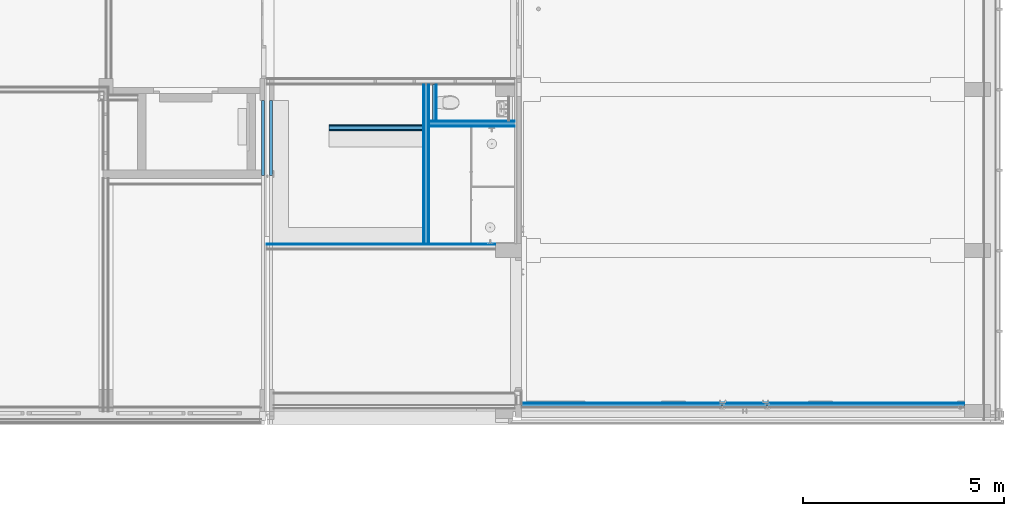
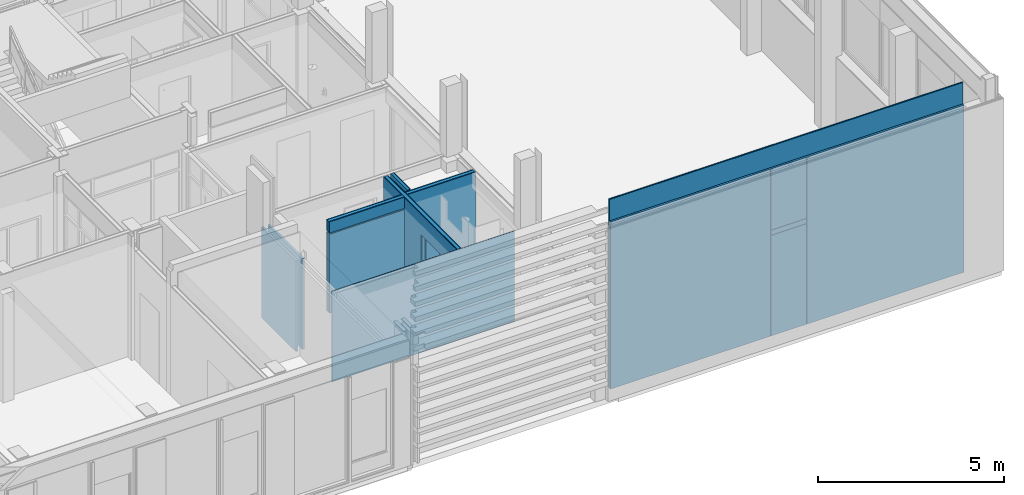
# One storey, part 78 of 109: 25 building element parts, 2 openings, 7 elements without a shape of their own.
"""IFC2X3 building model written with IfcOpenShell, lengths in millimetres."""

import ifcopenshell
import ifcopenshell.guid

model = None  # the IFC model being written
_history = None  # IfcOwnerHistory: only IFC2X3 demands one
_inside = {}  # id of a spatial element -> (the spatial element, [elements in it])
_under = {}  # id of a project, library or spatial element -> (it, [spatial elements below it])
_declared = {}  # id of a project -> (the project, [libraries it declares])
_typed = {}  # id of a type object -> (the type object, [elements of that type])
_made_of = {}  # id of a material, layer set ... -> (it, [elements and type objects made of it])


def new_model(schema):
    """Start an empty IFC model of exactly this schema.

    Asked for "IFC4X3", IfcOpenShell would pick the latest addendum, in which some entities
    have other attributes; the version numbers below select the first issue.
    IFC2X3 requires an IfcOwnerHistory on every rooted entity: one is made here for all.
    """
    global model, _history
    if schema == "IFC4X3":
        model = ifcopenshell.file(schema_version=(4, 3, 0, 0))
    else:
        model = ifcopenshell.file(schema=schema)
    _inside.clear()
    _under.clear()
    _declared.clear()
    _typed.clear()
    _made_of.clear()
    _history = None
    if model.schema == "IFC2X3":
        org = make("IfcOrganization", Name="unknown")
        user = make(
            "IfcPersonAndOrganization",
            ThePerson=make("IfcPerson", FamilyName="unknown"),
            TheOrganization=org,
        )
        app = make(
            "IfcApplication",
            ApplicationDeveloper=org,
            Version="unknown",
            ApplicationFullName="unknown",
            ApplicationIdentifier="unknown",
        )
        _history = make(
            "IfcOwnerHistory",
            OwningUser=user,
            OwningApplication=app,
            ChangeAction="ADDED",
            CreationDate=0,
        )
    return model


def make(cls, **values):
    """One entity of the class cls with the attributes given. An attribute that is None is left unset."""
    return model.create_entity(
        cls, **{name: value for name, value in values.items() if value is not None}
    )


def entity(cls, *values):
    """Any entity or typed value of the class cls, its attributes in the order of the schema. None: left unset."""
    e = model.create_entity(cls)
    for i, value in enumerate(values):
        if value is not None:
            e[i] = value
    return e


def rooted(cls, **values):
    """An entity with a GlobalId (a new one), such as an element, a storey or a relation."""
    return make(cls, GlobalId=ifcopenshell.guid.new(), OwnerHistory=_history, **values)


def si_unit(unit_type, name, prefix=None):
    """IfcSIUnit, for example si_unit("LENGTHUNIT", "METRE", prefix="MILLI")."""
    return make("IfcSIUnit", UnitType=unit_type, Prefix=prefix, Name=name)


def converted_unit(unit_type, name, factor, base, dimensions=None, offset=None):
    """IfcConversionBasedUnit, such as the inch: factor (a typed value) times the base unit."""
    return make(
        "IfcConversionBasedUnit"
        if offset is None
        else "IfcConversionBasedUnitWithOffset",
        ConversionOffset=offset,
        Dimensions=None
        if dimensions is None
        else entity("IfcDimensionalExponents", *dimensions),
        UnitType=unit_type,
        Name=name,
        ConversionFactor=make(
            "IfcMeasureWithUnit", ValueComponent=factor, UnitComponent=base
        ),
    )


def derived_unit(unit_type, elements):
    """IfcDerivedUnit: a product of units, each with its exponent."""
    return make(
        "IfcDerivedUnit",
        Elements=[
            make("IfcDerivedUnitElement", Unit=unit, Exponent=power)
            for unit, power in elements
        ],
        UnitType=unit_type,
    )


def money_unit(currency):
    """IfcMonetaryUnit."""
    return make("IfcMonetaryUnit", Currency=currency)


def assignment(units):
    """IfcUnitAssignment: the units of a project."""
    return None if units is None else make("IfcUnitAssignment", Units=units)


def point(xyz):
    """IfcCartesianPoint."""
    return None if xyz is None else make("IfcCartesianPoint", Coordinates=xyz)


def direction(xyz):
    """IfcDirection."""
    return None if xyz is None else make("IfcDirection", DirectionRatios=xyz)


def frame(location, z_axis=None, x_axis=None):
    """IfcAxis2Placement3D, a coordinate frame: its origin and axes. An axis left out is left unset."""
    return make(
        "IfcAxis2Placement3D",
        Location=point(location),
        Axis=direction(z_axis),
        RefDirection=direction(x_axis),
    )


def origin_with_axes():
    """The frame at (0, 0, 0) with the z axis (0, 0, 1) and the x axis (1, 0, 0) written out."""
    return frame((0.0, 0.0, 0.0), z_axis=(0.0, 0.0, 1.0), x_axis=(1.0, 0.0, 0.0))


def place(relative_to, where):
    """IfcLocalPlacement: puts the frame where relative to a parent placement (None: the world)."""
    return make(
        "IfcLocalPlacement", PlacementRelTo=relative_to, RelativePlacement=where
    )


def context(
    kind, dimensions, precision=None, world=None, true_north=None, identifier=None
):
    """IfcGeometricRepresentationContext, for example the 3D "Model" context."""
    return make(
        "IfcGeometricRepresentationContext",
        ContextIdentifier=identifier,
        ContextType=kind,
        CoordinateSpaceDimension=dimensions,
        Precision=precision,
        WorldCoordinateSystem=world,
        TrueNorth=true_north,
    )


def subcontext(parent, identifier, kind, view, scale=None):
    """IfcGeometricRepresentationSubContext, for example "Body" below "Model"."""
    return make(
        "IfcGeometricRepresentationSubContext",
        ContextIdentifier=identifier,
        ContextType=kind,
        ParentContext=parent,
        TargetScale=scale,
        TargetView=view,
    )


def project(units=None, contexts=None):
    """IfcProject with its units and contexts."""
    return rooted(
        "IfcProject",
        Name="project",
        RepresentationContexts=contexts,
        UnitsInContext=assignment(units),
    )


def spatial(cls, under=None, at=None, **own):
    """A site, building, storey or space (cls), placed at a placement, below another one or the project."""
    s = rooted(cls, ObjectPlacement=at, **own)
    if under is not None:
        _under.setdefault(under.id(), (under, []))[1].append(s)
    return s


def faces_of(points, faces, orient=None, outer=None):
    """IfcFace entities. A face is a list of loops; a loop is a list of indices into points, from 0.

    orient and outer hold one flag for each loop. By default every Orientation is true, the
    first loop of a face is its IfcFaceOuterBound and the others are IfcFaceBound.
    """
    made = []
    for i, loops in enumerate(faces):
        bounds = []
        for j, loop in enumerate(loops):
            is_outer = j == 0 if outer is None else outer[i][j]
            bounds.append(
                make(
                    "IfcFaceOuterBound" if is_outer else "IfcFaceBound",
                    Bound=make("IfcPolyLoop", Polygon=[points[k] for k in loop]),
                    Orientation=True if orient is None else orient[i][j],
                )
            )
        made.append(make("IfcFace", Bounds=bounds))
    return made


def faceted_brep(points, faces, orient=None, outer=None, voids=None):
    """IfcFacetedBrep: a solid bounded by flat faces; with voids (closed shells), ...WithVoids."""
    shared = [point(p) for p in points]
    hull = make("IfcClosedShell", CfsFaces=faces_of(shared, faces, orient, outer))
    if voids is None:
        return make("IfcFacetedBrep", Outer=hull)
    return make(
        "IfcFacetedBrepWithVoids",
        Outer=hull,
        Voids=[
            make(cls, CfsFaces=faces_of(shared, fs, o, b)) for cls, fs, o, b in voids
        ],
    )


def shape(context_of_items, identifier, shape_type, items):
    """IfcShapeRepresentation: the items that make up one representation, for example the "Body"."""
    return make(
        "IfcShapeRepresentation",
        ContextOfItems=context_of_items,
        RepresentationIdentifier=identifier,
        RepresentationType=shape_type,
        Items=items,
    )


def material(Name=None, Category=None):
    """IfcMaterial."""
    return make("IfcMaterial", Name=Name, Category=Category)


def made_of(thing, what):
    """Note that an element or type object is made of a material, layer set ...; save() writes the relation."""
    if what is not None:
        _made_of.setdefault(what.id(), (what, []))[1].append(thing)
    return thing


def type_object(cls, material=None, **own):
    """A type object (cls), such as IfcWallType, which elements share."""
    return made_of(rooted(cls, **own), material)


def element(
    cls,
    number,
    at=None,
    inside=None,
    cuts=None,
    type_object=None,
    material=None,
    context=None,
    identifier="Body",
    shape_type=None,
    held_by="IfcProductDefinitionShape",
    body=None,
    shapes=None,
    **own,
):
    """One element of the class cls, such as IfcWall. Its Tag is "e" and its number.

    at: its placement. inside: the storey or other place that contains it. cuts: it is an
    opening in that element (IfcRelVoidsElement). A single representation is given by context,
    identifier, shape_type and body (its items); several are given by shapes. held_by: the class
    of the entity that holds the representations. save() writes the other relations.
    """
    e = rooted(cls, Tag="e%d" % number, ObjectPlacement=at, **own)
    if body is not None:
        shapes = [shape(context, identifier, shape_type, body)]
    if shapes is not None:
        e.Representation = make(held_by, Representations=shapes)
    if inside is not None:
        _inside.setdefault(inside.id(), (inside, []))[1].append(e)
    if cuts is not None:
        rooted(
            "IfcRelVoidsElement", RelatingBuildingElement=cuts, RelatedOpeningElement=e
        )
    if type_object is not None:
        _typed.setdefault(type_object.id(), (type_object, []))[1].append(e)
    return made_of(e, material)


def aggregate(whole, parts):
    """IfcRelAggregates: a whole, such as a stair, and the parts it consists of."""
    return rooted("IfcRelAggregates", RelatingObject=whole, RelatedObjects=parts)


def save(model, path):
    """Write the relations noted so far, then the file.

    IfcRelAggregates (storeys below a building ...), IfcRelContainedInSpatialStructure (elements
    in a storey), IfcRelDefinesByType, IfcRelAssociatesMaterial and IfcRelDeclares: one each for
    every whole, place, type object, material and project.
    """
    for whole, parts in _under.values():
        aggregate(whole, parts)
    for where, things in _inside.values():
        rooted(
            "IfcRelContainedInSpatialStructure",
            RelatedElements=things,
            RelatingStructure=where,
        )
    for kind, things in _typed.values():
        rooted("IfcRelDefinesByType", RelatedObjects=things, RelatingType=kind)
    for what, things in _made_of.values():
        rooted("IfcRelAssociatesMaterial", RelatedObjects=things, RelatingMaterial=what)
    for by, libraries in _declared.values():
        rooted("IfcRelDeclares", RelatingContext=by, RelatedDefinitions=libraries)
    model.write(path)


model = new_model("IFC2X3")

# Units and contexts
model_context = context("Model", 3, precision=0.01, world=origin_with_axes(), true_north=direction((0.0, 1.0)))
body_context = subcontext(model_context, "Body", "Model", "MODEL_VIEW")
ifc_project = project(units=[si_unit("LENGTHUNIT", "METRE", prefix="MILLI"), si_unit("AREAUNIT", "SQUARE_METRE"), si_unit("VOLUMEUNIT", "CUBIC_METRE"), converted_unit("PLANEANGLEUNIT", "DEGREE", entity("IfcPlaneAngleMeasure", 0.0174532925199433), si_unit("PLANEANGLEUNIT", "RADIAN"), dimensions=[0, 0, 0, 0, 0, 0, 0]), money_unit("EUR"), converted_unit("TIMEUNIT", "Year", entity("IfcTimeMeasure", 31557600.0), si_unit("TIMEUNIT", "SECOND"), dimensions=[0, 0, 1, 0, 0, 0, 0]), si_unit("MASSUNIT", "GRAM", prefix="KILO"), si_unit("THERMODYNAMICTEMPERATUREUNIT", "DEGREE_CELSIUS"), si_unit("LUMINOUSINTENSITYUNIT", "LUMEN"), si_unit("ENERGYUNIT", "JOULE", prefix="MEGA"), derived_unit("THERMALCONDUCTANCEUNIT", [(si_unit("POWERUNIT", "WATT"), 1), (si_unit("LENGTHUNIT", "METRE"), -1), (si_unit("THERMODYNAMICTEMPERATUREUNIT", "KELVIN"), -1)]), derived_unit("SPECIFICHEATCAPACITYUNIT", [(si_unit("ENERGYUNIT", "JOULE"), 1), (si_unit("MASSUNIT", "GRAM", prefix="KILO"), -1), (si_unit("THERMODYNAMICTEMPERATUREUNIT", "KELVIN"), -1)]), derived_unit("MASSDENSITYUNIT", [(si_unit("MASSUNIT", "GRAM", prefix="KILO"), 1), (si_unit("VOLUMEUNIT", "CUBIC_METRE"), -1)])], contexts=[model_context])

# Site, building, storey
site_placement = place(None, origin_with_axes())
site = spatial("IfcSite", under=ifc_project, at=site_placement, Name="<site naam>", CompositionType="ELEMENT")
building_placement = place(site_placement, origin_with_axes())
building = spatial("IfcBuilding", under=site, at=building_placement, Name="<Naam gebouw>", CompositionType="ELEMENT")
storey_placement = place(building_placement, origin_with_axes())
storey = spatial("IfcBuildingStorey", under=building, at=storey_placement, Name="00 Begane grond", CompositionType="ELEMENT", Elevation=0.0)

# Wall, opening, building element parts
wall_type_1 = type_object("IfcWallType", Name="metalstud-lucht-metalstud 270 270", PredefinedType="NOTDEFINED")
wall_1_placement = place(storey_placement, frame((52000.00000000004, 11725.00000000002, 0.0), z_axis=(0.0, 0.0, 1.0), x_axis=(0.0, -1.0, 0.0)))
wall_1 = element("IfcWall", 1, at=wall_1_placement, inside=storey, type_object=wall_type_1, Name="22_Binnenwand_metalstud-lucht-metalstud")
opening_1_placement = place(wall_1_placement, frame((1724.999999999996, 0.0, 0.0), z_axis=(0.0, 0.0, 1.0), x_axis=(1.0, 0.0, 0.0)))
element("IfcOpeningElement", 2, at=opening_1_placement, cuts=wall_1, Name="22_BI-D-06_305", context=body_context, shape_type="Brep", body=[
    faceted_brep([(1724.999999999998, 136.0000000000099, 3000.0), (1724.999999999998, 136.0000000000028, 0.0), (-1724.999999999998, 136.0000000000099, 0.0), (-1724.999999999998, 136.0000000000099, 3000.0), (1724.999999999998, -136.0000000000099, 3000.0), (1724.999999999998, -136.000000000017, 0.0), (-1724.999999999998, -136.0000000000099, 0.0), (-1724.999999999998, -136.0000000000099, 3000.0)], [[[0, 1, 2, 3]], [[4, 5, 1, 0]], [[5, 6, 2, 1]], [[6, 7, 3, 2]], [[7, 4, 0, 3]], [[6, 5, 4, 7]]]),
])
ifc_material_1 = material(Name="metal_stud")
building_element_part_1_placement = place(wall_1_placement, origin_with_axes())
building_element_part_1 = element("IfcBuildingElementPart", 3, at=building_element_part_1_placement, material=ifc_material_1, Name="metal_stud", context=body_context, shape_type="Brep", body=[
    faceted_brep([(5853.999999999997, 134.999999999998, 0.0), (3999.999999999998, 134.999999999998, 0.0), (3999.999999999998, 134.999999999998, 2978.0), (5853.999999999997, 134.999999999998, 2978.0), (5853.999999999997, 64.99999999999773, 0.0), (3999.999999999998, 64.99999999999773, 0.0), (3999.999999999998, 64.99999999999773, 2978.0), (5853.999999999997, 64.99999999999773, 2978.0)], [[[0, 1, 2, 3]], [[4, 5, 1, 0]], [[5, 6, 2, 1]], [[3, 2, 6, 7]], [[4, 0, 3, 7]], [[7, 6, 5, 4]]]),
    faceted_brep([(0.0, 64.99999999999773, 2978.0), (3449.999999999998, 64.99999999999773, 2978.0), (3449.999999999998, 134.999999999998, 2978.0), (0.0, 134.999999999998, 2978.0), (0.0, 64.99999999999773, 0.0), (3449.999999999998, 64.99999999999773, 0.0), (3449.999999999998, 134.999999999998, 0.0), (0.0, 134.999999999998, 0.0)], [[[0, 1, 2, 3]], [[4, 5, 1, 0]], [[5, 6, 2, 1]], [[3, 2, 6, 7]], [[7, 4, 0, 3]], [[7, 6, 5, 4]]]),
])
building_element_part_2_placement = place(wall_1_placement, origin_with_axes())
building_element_part_2 = element("IfcBuildingElementPart", 4, at=building_element_part_2_placement, material=ifc_material_1, Name="metal_stud", context=body_context, shape_type="Brep", body=[
    faceted_brep([(5853.999999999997, -64.99999999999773, 0.0), (3999.999999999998, -64.99999999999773, 0.0), (3999.999999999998, -64.99999999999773, 2978.0), (5853.999999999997, -64.99999999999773, 2978.0), (5853.999999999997, -134.999999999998, 0.0), (3999.999999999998, -134.999999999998, 0.0), (3999.999999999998, -134.999999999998, 2978.0), (5853.999999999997, -134.999999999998, 2978.0)], [[[0, 1, 2, 3]], [[4, 5, 1, 0]], [[5, 6, 2, 1]], [[3, 2, 6, 7]], [[4, 0, 3, 7]], [[7, 6, 5, 4]]]),
    faceted_brep([(0.0, -134.999999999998, 2978.0), (3449.999999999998, -134.999999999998, 2978.0), (3449.999999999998, -64.99999999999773, 2978.0), (0.0, -64.99999999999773, 2978.0), (0.0, -134.999999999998, 0.0), (3449.999999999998, -134.999999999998, 0.0), (3449.999999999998, -64.99999999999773, 0.0), (0.0, -64.99999999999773, 0.0)], [[[0, 1, 2, 3]], [[4, 5, 1, 0]], [[5, 6, 2, 1]], [[3, 2, 6, 7]], [[7, 4, 0, 3]], [[7, 6, 5, 4]]]),
])
aggregate(wall_1, [building_element_part_1, building_element_part_2])

# Wall, building element parts
wall_type_2 = type_object("IfcWallType", Name="MS-01 GF 150 ECO DGS/2.100.2.A 150", PredefinedType="NOTDEFINED")
wall_2_placement = place(storey_placement, frame((56037.8144885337, 7225.000000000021, 0.0), z_axis=(0.0, 0.0, 1.0), x_axis=(1.0, 0.0, 0.0)))
wall_2 = element("IfcWall", 5, at=wall_2_placement, inside=storey, type_object=wall_type_2, Name="22_Binnenwand_MS-01")
ifc_material_2 = material(Name="gipsplaat")
building_element_part_3_placement = place(wall_2_placement, origin_with_axes())
building_element_part_3 = element("IfcBuildingElementPart", 6, at=building_element_part_3_placement, material=ifc_material_2, Name="gipsplaat", context=body_context, shape_type="Brep", body=[
    faceted_brep([(0.0, 0.0, 2978.0), (2119.968356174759, 0.0, 2978.0), (2119.968356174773, 0.0, 0.0), (0.0, 0.0, 0.0), (2119.968356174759, -12.49999999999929, 2978.0), (0.0, -12.50000000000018, 2978.0), (2119.968356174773, -12.50000000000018, 0.0), (0.0, -12.50000000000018, 0.0)], [[[0, 1, 2, 3]], [[4, 1, 0, 5]], [[1, 4, 6, 2]], [[3, 2, 6, 7]], [[5, 0, 3, 7]], [[4, 5, 7, 6]]]),
])
building_element_part_4_placement = place(wall_2_placement, origin_with_axes())
building_element_part_4 = element("IfcBuildingElementPart", 7, at=building_element_part_4_placement, material=ifc_material_2, Name="gipsplaat", context=body_context, shape_type="Brep", body=[
    faceted_brep([(0.0, -12.50000000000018, 2978.0), (2119.968356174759, -12.50000000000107, 2978.0), (2119.968356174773, -12.50000000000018, 0.0), (0.0, -12.50000000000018, 0.0), (2119.968356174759, -25.00000000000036, 2978.0), (0.0, -24.99999999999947, 2978.0), (2119.968356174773, -24.99999999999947, 0.0), (0.0, -25.00000000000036, 0.0)], [[[0, 1, 2, 3]], [[4, 1, 0, 5]], [[1, 4, 6, 2]], [[3, 2, 6, 7]], [[5, 0, 3, 7]], [[4, 5, 7, 6]]]),
])
building_element_part_5_placement = place(wall_2_placement, origin_with_axes())
building_element_part_5 = element("IfcBuildingElementPart", 8, at=building_element_part_5_placement, material=ifc_material_2, Name="gipsplaat", context=body_context, shape_type="Brep", body=[
    faceted_brep([(0.0, -125.0, 2978.0), (2119.968356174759, -125.0, 2978.0), (2119.968356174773, -125.0, 0.0), (0.0, -125.0, 0.0), (2119.968356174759, -137.5000000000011, 2978.0), (0.0, -137.5000000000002, 2978.0), (2119.968356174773, -137.5000000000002, 0.0), (0.0, -137.5000000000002, 0.0)], [[[0, 1, 2, 3]], [[4, 1, 0, 5]], [[1, 4, 6, 2]], [[3, 2, 6, 7]], [[5, 0, 3, 7]], [[4, 5, 7, 6]]]),
])
ifc_material_3 = material(Name="isolatie_steenwol LSW")
building_element_part_6_placement = place(wall_2_placement, origin_with_axes())
building_element_part_6 = element("IfcBuildingElementPart", 9, at=building_element_part_6_placement, material=ifc_material_3, Name="isolatie_steenwol LSW", context=body_context, shape_type="Brep", body=[
    faceted_brep([(0.0, -24.99999999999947, 2978.0), (2119.968356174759, -25.00000000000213, 2978.0), (2119.968356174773, -24.99999999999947, 0.0), (0.0, -25.00000000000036, 0.0), (2119.968356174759, -125.0, 2978.0), (0.0, -125.0, 2978.0), (2119.968356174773, -125.0, 0.0), (0.0, -125.0, 0.0)], [[[0, 1, 2, 3]], [[4, 1, 0, 5]], [[1, 4, 6, 2]], [[3, 2, 6, 7]], [[5, 0, 3, 7]], [[4, 5, 7, 6]]]),
])

# Wall, opening, building element parts
wall_3_placement = place(storey_placement, frame((56037.8144885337, 4175.000000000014, 0.0), z_axis=(0.0, 0.0, 1.0), x_axis=(0.0, 1.0, 0.0)))
wall_3 = element("IfcWall", 10, at=wall_3_placement, inside=storey, type_object=wall_type_2, Name="22_Binnenwand_MS-01")
opening_2_placement = place(wall_3_placement, frame((1412.500000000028, 0.0, 0.0), z_axis=(0.0, 0.0, 1.0), x_axis=(1.0, 0.0, 0.0)))
element("IfcOpeningElement", 11, at=opening_2_placement, cuts=wall_3, Name="22__305", context=body_context, shape_type="Brep", body=[
    faceted_brep([(-500.0, -0.9999999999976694, 2300.0), (-500.0, -0.9999999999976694, 0.0), (500.0, -0.9999999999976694, 0.0), (500.0, -0.9999999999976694, 2300.0), (-500.0, 150.9999999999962, 2300.0), (-500.0, 150.9999999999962, 0.0), (500.0, 150.9999999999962, 0.0), (500.0, 150.9999999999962, 2300.0)], [[[0, 1, 2, 3]], [[4, 5, 1, 0]], [[5, 6, 2, 1]], [[6, 7, 3, 2]], [[7, 4, 0, 3]], [[6, 5, 4, 7]]]),
])
building_element_part_7_placement = place(wall_3_placement, origin_with_axes())
building_element_part_7 = element("IfcBuildingElementPart", 12, at=building_element_part_7_placement, material=ifc_material_2, Name="gipsplaat", context=body_context, shape_type="Brep", body=[
    faceted_brep([(3950.000000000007, 149.9999999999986, 2978.0), (3950.000000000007, 137.5000000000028, 2978.0), (3950.000000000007, 137.5000000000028, 0.0), (3950.000000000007, 149.9999999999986, 0.0), (0.0, 137.5000000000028, 2978.0), (0.0, 149.9999999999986, 2978.0), (0.0, 137.5000000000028, 3.000000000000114), (2900.000000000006, 137.5000000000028, 2.999999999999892), (2900.000000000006, 137.5000000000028, 0.0), (2900.000000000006, 149.9999999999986, 0.0), (2900.000000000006, 149.9999999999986, 2.999999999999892), (0.0, 149.9999999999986, 2.999999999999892)], [[[0, 1, 2, 3]], [[4, 1, 0, 5]], [[1, 4, 6, 7, 8, 2]], [[2, 8, 9, 3]], [[5, 0, 3, 9, 10, 11]], [[4, 5, 11, 6]], [[11, 10, 7, 6]], [[9, 8, 7, 10]]]),
])
building_element_part_8_placement = place(wall_3_placement, origin_with_axes())
building_element_part_8 = element("IfcBuildingElementPart", 13, at=building_element_part_8_placement, material=ifc_material_2, Name="gipsplaat", context=body_context, shape_type="Brep", body=[
    faceted_brep([(3950.000000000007, 137.5000000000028, 2978.0), (3950.000000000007, 125.0, 2978.0), (3950.000000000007, 125.0, 0.0), (3950.000000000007, 137.5000000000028, 0.0), (0.0, 125.0, 2978.0), (0.0, 137.5000000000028, 2978.0), (0.0, 125.0, 3.000000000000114), (2900.000000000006, 125.0, 2.999999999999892), (2900.000000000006, 125.0, 0.0), (2900.000000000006, 137.5000000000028, 0.0), (2900.000000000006, 137.5000000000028, 2.999999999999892), (0.0, 137.5000000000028, 2.999999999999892)], [[[0, 1, 2, 3]], [[4, 1, 0, 5]], [[1, 4, 6, 7, 8, 2]], [[2, 8, 9, 3]], [[5, 0, 3, 9, 10, 11]], [[4, 5, 11, 6]], [[11, 10, 7, 6]], [[9, 8, 7, 10]]]),
])
building_element_part_9_placement = place(wall_3_placement, origin_with_axes())
building_element_part_9 = element("IfcBuildingElementPart", 14, at=building_element_part_9_placement, material=ifc_material_3, Name="isolatie_steenwol LSW", context=body_context, shape_type="Brep", body=[
    faceted_brep([(3950.000000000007, 125.0, 2978.0), (3950.000000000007, 24.99999999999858, 2978.0), (3950.000000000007, 24.99999999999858, 0.0), (3950.000000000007, 125.0, 0.0), (0.0, 24.99999999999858, 2978.0), (0.0, 125.0, 2978.0), (0.0, 24.99999999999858, 3.000000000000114), (2900.000000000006, 24.99999999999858, 2.999999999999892), (2900.000000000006, 24.99999999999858, 0.0), (2900.000000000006, 125.0, 0.0), (2900.000000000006, 125.0, 2.999999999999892), (0.0, 125.0, 2.999999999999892)], [[[0, 1, 2, 3]], [[4, 1, 0, 5]], [[1, 4, 6, 7, 8, 2]], [[2, 8, 9, 3]], [[5, 0, 3, 9, 10, 11]], [[4, 5, 11, 6]], [[11, 10, 7, 6]], [[9, 8, 7, 10]]]),
])
building_element_part_10_placement = place(wall_3_placement, origin_with_axes())
building_element_part_10 = element("IfcBuildingElementPart", 15, at=building_element_part_10_placement, material=ifc_material_2, Name="gipsplaat", context=body_context, shape_type="Brep", body=[
    faceted_brep([(3950.000000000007, 24.99999999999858, 2978.0), (3950.000000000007, 12.50000000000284, 2978.0), (3950.000000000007, 12.50000000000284, 0.0), (3950.000000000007, 24.99999999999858, 0.0), (0.0, 12.50000000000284, 2978.0), (0.0, 24.99999999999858, 2978.0), (0.0, 12.50000000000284, 3.000000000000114), (2900.000000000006, 12.50000000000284, 2.999999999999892), (2900.000000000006, 12.50000000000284, 0.0), (2900.000000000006, 24.99999999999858, 0.0), (2900.000000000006, 24.99999999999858, 2.999999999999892), (0.0, 24.99999999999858, 2.999999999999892)], [[[0, 1, 2, 3]], [[4, 1, 0, 5]], [[1, 4, 6, 7, 8, 2]], [[2, 8, 9, 3]], [[5, 0, 3, 9, 10, 11]], [[4, 5, 11, 6]], [[11, 10, 7, 6]], [[9, 8, 7, 10]]]),
])
building_element_part_11_placement = place(wall_3_placement, origin_with_axes())
building_element_part_11 = element("IfcBuildingElementPart", 16, at=building_element_part_11_placement, material=ifc_material_2, Name="gipsplaat", context=body_context, shape_type="Brep", body=[
    faceted_brep([(3950.000000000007, 12.50000000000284, 2978.0), (3950.000000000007, 0.0, 2978.0), (3950.000000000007, 0.0, 0.0), (3950.000000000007, 12.50000000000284, 0.0), (0.0, 0.0, 2978.0), (0.0, 12.50000000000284, 2978.0), (0.0, 0.0, 3.000000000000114), (2900.000000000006, 0.0, 2.999999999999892), (2900.000000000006, 0.0, 0.0), (2900.000000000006, 12.50000000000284, 0.0), (2900.000000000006, 12.50000000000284, 2.999999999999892), (0.0, 12.50000000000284, 2.999999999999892)], [[[0, 1, 2, 3]], [[4, 1, 0, 5]], [[1, 4, 6, 7, 8, 2]], [[2, 8, 9, 3]], [[5, 0, 3, 9, 10, 11]], [[4, 5, 11, 6]], [[11, 10, 7, 6]], [[9, 8, 7, 10]]]),
])
aggregate(wall_3, [building_element_part_7, building_element_part_8, building_element_part_9, building_element_part_10, building_element_part_11])

# Wall, building element parts
wall_4_placement = place(storey_placement, frame((52000.00000000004, 4175.000000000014, 0.0), z_axis=(0.0, 0.0, 1.0), x_axis=(1.0, 0.0, 0.0)))
wall_4 = element("IfcWall", 17, at=wall_4_placement, inside=storey, type_object=wall_type_2, Name="22_Binnenwand_MS-01")
building_element_part_12_placement = place(wall_4_placement, origin_with_axes())
building_element_part_12 = element("IfcBuildingElementPart", 18, at=building_element_part_12_placement, material=ifc_material_2, Name="gipsplaat", context=body_context, shape_type="Brep", body=[
    faceted_brep([(5675.000000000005, -24.99999999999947, 2978.0), (5675.000000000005, -12.49999999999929, 2978.0), (0.0, -12.50000000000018, 2978.0), (0.0, -24.99999999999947, 2978.0), (5675.000000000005, -12.49999999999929, 3.000000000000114), (5675.000000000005, -24.99999999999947, 3.000000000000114), (135.0000000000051, -12.49999999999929, 3.000000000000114), (135.0000000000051, -12.50000000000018, 0.0), (0.0, -12.50000000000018, 0.0), (0.0, -25.00000000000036, 0.0), (135.0000000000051, -25.00000000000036, 0.0), (135.0000000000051, -24.99999999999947, 3.000000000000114)], [[[0, 1, 2, 3]], [[4, 1, 0, 5]], [[1, 4, 6, 7, 8, 2]], [[9, 3, 2, 8]], [[5, 0, 3, 9, 10, 11]], [[4, 5, 11, 6]], [[11, 10, 7, 6]], [[9, 8, 7, 10]]]),
])
building_element_part_13_placement = place(wall_4_placement, origin_with_axes())
building_element_part_13 = element("IfcBuildingElementPart", 19, at=building_element_part_13_placement, material=ifc_material_2, Name="gipsplaat", context=body_context, shape_type="Brep", body=[
    faceted_brep([(5675.000000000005, -12.49999999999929, 2978.0), (5675.000000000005, 0.0, 2978.0), (0.0, 0.0, 2978.0), (0.0, -12.50000000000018, 2978.0), (5675.000000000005, 0.0, 3.000000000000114), (5675.000000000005, -12.49999999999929, 3.000000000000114), (135.0000000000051, 0.0, 3.000000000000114), (135.0000000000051, 0.0, 0.0), (0.0, 0.0, 0.0), (0.0, -12.50000000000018, 0.0), (135.0000000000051, -12.50000000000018, 0.0), (135.0000000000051, -12.49999999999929, 3.000000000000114)], [[[0, 1, 2, 3]], [[4, 1, 0, 5]], [[1, 4, 6, 7, 8, 2]], [[9, 3, 2, 8]], [[5, 0, 3, 9, 10, 11]], [[4, 5, 11, 6]], [[11, 10, 7, 6]], [[9, 8, 7, 10]]]),
])
aggregate(wall_4, [building_element_part_12, building_element_part_13])

# Building element part
building_element_part_14_placement = place(wall_2_placement, origin_with_axes())
building_element_part_14 = element("IfcBuildingElementPart", 20, at=building_element_part_14_placement, material=ifc_material_2, Name="gipsplaat", context=body_context, shape_type="Brep", body=[
    faceted_brep([(0.0, -137.5000000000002, 2978.0), (2119.968356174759, -137.4999999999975, 2978.0), (2119.968356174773, -137.5000000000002, 0.0), (0.0, -137.5000000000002, 0.0), (2119.968356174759, -150.0000000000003, 2978.0), (0.0, -149.9999999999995, 2978.0), (2119.968356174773, -149.9999999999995, 0.0), (0.0, -150.0000000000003, 0.0)], [[[0, 1, 2, 3]], [[4, 1, 0, 5]], [[1, 4, 6, 2]], [[3, 2, 6, 7]], [[5, 0, 3, 7]], [[4, 5, 7, 6]]]),
])

aggregate(wall_2, [building_element_part_3, building_element_part_4, building_element_part_5, building_element_part_6, building_element_part_14])

# Wall, building element parts
wall_5_placement = place(storey_placement, frame((53547.8144872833, 7124.999999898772, 0.0), z_axis=(0.0, 0.0, 1.0), x_axis=(1.0, 0.0, 0.0)))
wall_5 = element("IfcWall", 21, at=wall_5_placement, inside=storey, type_object=wall_type_2, Name="22_Binnenwand_MS-01")
building_element_part_15_placement = place(wall_5_placement, origin_with_axes())
building_element_part_15 = element("IfcBuildingElementPart", 22, at=building_element_part_15_placement, material=ifc_material_2, Name="gipsplaat", context=body_context, shape_type="Brep", body=[
    faceted_brep([(2340.0000017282, -12.50000009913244, 2.999999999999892), (2340.000001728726, -9.913136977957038e-08, 2.999999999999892), (2340.000024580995, -9.913136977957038e-08, 2600.0), (2340.000024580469, -12.50000009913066, 2600.0), (0.0, 0.0, 3.000000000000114), (-5.258016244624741e-10, -12.50000000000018, 2.999999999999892), (0.0, 0.0, 2600.0), (-5.258016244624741e-10, -12.50000000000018, 2600.0)], [[[0, 1, 2, 3]], [[4, 1, 0, 5]], [[1, 4, 6, 2]], [[3, 2, 6, 7]], [[5, 0, 3, 7]], [[4, 5, 7, 6]]]),
    faceted_brep([(2340.000024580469, -12.50000009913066, 2640.0), (2340.000024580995, -9.913136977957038e-08, 2640.0), (2340.000001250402, -9.913136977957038e-08, 3008.0), (2340.000001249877, -12.50000009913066, 3008.0), (0.0, 0.0, 2640.0), (-5.258016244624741e-10, -12.50000000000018, 2640.0), (0.0, 0.0, 3008.0), (-5.258016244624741e-10, -12.50000000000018, 3008.0)], [[[0, 1, 2, 3]], [[4, 1, 0, 5]], [[1, 4, 6, 2]], [[3, 2, 6, 7]], [[5, 0, 3, 7]], [[4, 5, 7, 6]]]),
])
building_element_part_16_placement = place(wall_5_placement, origin_with_axes())
building_element_part_16 = element("IfcBuildingElementPart", 23, at=building_element_part_16_placement, material=ifc_material_3, Name="isolatie_steenwol LSW", context=body_context, shape_type="Brep", body=[
    faceted_brep([(2340.000001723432, -125.0000000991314, 2.999999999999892), (2340.000001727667, -25.00000009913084, 2.999999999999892), (2340.000024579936, -25.00000009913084, 2600.0), (2340.000024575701, -125.0000000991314, 2600.0), (-1.058708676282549e-09, -25.00000000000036, 3.000000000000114), (-5.293543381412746e-09, -125.0, 2.999999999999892), (-1.058708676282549e-09, -24.99999999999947, 2600.0), (-5.293543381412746e-09, -125.0, 2600.0)], [[[0, 1, 2, 3]], [[4, 1, 0, 5]], [[1, 4, 6, 2]], [[3, 2, 6, 7]], [[5, 0, 3, 7]], [[4, 5, 7, 6]]]),
    faceted_brep([(2340.000024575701, -125.0000000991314, 2640.0), (2340.000024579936, -25.00000009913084, 2640.0), (2340.000001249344, -25.00000009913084, 3008.0), (2340.000001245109, -125.0000000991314, 3008.0), (-1.058708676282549e-09, -24.99999999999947, 2640.0), (-5.293543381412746e-09, -125.0, 2640.0), (-1.058708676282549e-09, -24.99999999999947, 3008.0), (-5.293543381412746e-09, -125.0, 3008.0)], [[[0, 1, 2, 3]], [[4, 1, 0, 5]], [[1, 4, 6, 2]], [[3, 2, 6, 7]], [[5, 0, 3, 7]], [[4, 5, 7, 6]]]),
])
building_element_part_17_placement = place(wall_5_placement, origin_with_axes())
building_element_part_17 = element("IfcBuildingElementPart", 24, at=building_element_part_17_placement, material=ifc_material_2, Name="gipsplaat", context=body_context, shape_type="Brep", body=[
    faceted_brep([(2340.000001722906, -137.5000000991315, 2.999999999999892), (2340.000001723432, -125.0000000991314, 2.999999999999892), (2340.000024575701, -125.0000000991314, 2600.0), (2340.000024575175, -137.5000000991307, 2600.0), (-5.293543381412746e-09, -125.0, 3.000000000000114), (-5.819345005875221e-09, -137.5000000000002, 2.999999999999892), (-5.293543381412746e-09, -125.0, 2600.0), (-5.819345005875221e-09, -137.5000000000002, 2600.0)], [[[0, 1, 2, 3]], [[4, 1, 0, 5]], [[1, 4, 6, 2]], [[3, 2, 6, 7]], [[5, 0, 3, 7]], [[4, 5, 7, 6]]]),
    faceted_brep([(2340.000024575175, -137.5000000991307, 2640.0), (2340.000024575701, -125.0000000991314, 2640.0), (2340.000001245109, -125.0000000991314, 3008.0), (2340.000001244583, -137.5000000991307, 3008.0), (-5.293543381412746e-09, -125.0, 2640.0), (-5.819345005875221e-09, -137.5000000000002, 2640.0), (-5.293543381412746e-09, -125.0, 3008.0), (-5.819345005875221e-09, -137.5000000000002, 3008.0)], [[[0, 1, 2, 3]], [[4, 1, 0, 5]], [[1, 4, 6, 2]], [[3, 2, 6, 7]], [[5, 0, 3, 7]], [[4, 5, 7, 6]]]),
])
building_element_part_18_placement = place(wall_5_placement, origin_with_axes())
building_element_part_18 = element("IfcBuildingElementPart", 25, at=building_element_part_18_placement, material=ifc_material_2, Name="gipsplaat", context=body_context, shape_type="Brep", body=[
    faceted_brep([(2340.000001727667, -25.00000009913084, 2.999999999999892), (2340.0000017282, -12.50000009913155, 2.999999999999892), (2340.000024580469, -12.50000009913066, 2600.0), (2340.000024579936, -25.00000009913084, 2600.0), (-5.258016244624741e-10, -12.50000000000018, 3.000000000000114), (-1.058708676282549e-09, -25.00000000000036, 2.999999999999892), (-5.258016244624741e-10, -12.50000000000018, 2600.0), (-1.058708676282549e-09, -24.99999999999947, 2600.0)], [[[0, 1, 2, 3]], [[4, 1, 0, 5]], [[1, 4, 6, 2]], [[3, 2, 6, 7]], [[5, 0, 3, 7]], [[4, 5, 7, 6]]]),
    faceted_brep([(2340.000024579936, -25.00000009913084, 2640.0), (2340.000024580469, -12.50000009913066, 2640.0), (2340.000001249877, -12.50000009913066, 3008.0), (2340.000001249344, -25.00000009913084, 3008.0), (-5.258016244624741e-10, -12.50000000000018, 2640.0), (-1.058708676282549e-09, -24.99999999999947, 2640.0), (-5.258016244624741e-10, -12.50000000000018, 3008.0), (-1.058708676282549e-09, -24.99999999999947, 3008.0)], [[[0, 1, 2, 3]], [[4, 1, 0, 5]], [[1, 4, 6, 2]], [[3, 2, 6, 7]], [[5, 0, 3, 7]], [[4, 5, 7, 6]]]),
])
building_element_part_19_placement = place(wall_5_placement, origin_with_axes())
building_element_part_19 = element("IfcBuildingElementPart", 26, at=building_element_part_19_placement, material=ifc_material_2, Name="gipsplaat", context=body_context, shape_type="Brep", body=[
    faceted_brep([(2340.000001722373, -150.0000000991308, 2.999999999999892), (2340.000001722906, -137.5000000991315, 2.999999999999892), (2340.000024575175, -137.5000000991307, 2600.0), (2340.000024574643, -150.0000000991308, 2600.0), (-5.819345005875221e-09, -137.5000000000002, 3.000000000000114), (-6.352252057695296e-09, -150.0000000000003, 2.999999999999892), (-5.819345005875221e-09, -137.5000000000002, 2600.0), (-6.352252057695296e-09, -149.9999999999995, 2600.0)], [[[0, 1, 2, 3]], [[4, 1, 0, 5]], [[1, 4, 6, 2]], [[3, 2, 6, 7]], [[5, 0, 3, 7]], [[4, 5, 7, 6]]]),
    faceted_brep([(2340.000024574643, -150.0000000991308, 2640.0), (2340.000024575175, -137.5000000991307, 2640.0), (2340.000001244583, -137.5000000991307, 3008.0), (2340.00000124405, -150.0000000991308, 3008.0), (-5.819345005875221e-09, -137.5000000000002, 2640.0), (-6.352252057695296e-09, -149.9999999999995, 2640.0), (-5.819345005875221e-09, -137.5000000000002, 3008.0), (-6.352252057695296e-09, -149.9999999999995, 3008.0)], [[[0, 1, 2, 3]], [[4, 1, 0, 5]], [[1, 4, 6, 2]], [[3, 2, 6, 7]], [[5, 0, 3, 7]], [[4, 5, 7, 6]]]),
])
aggregate(wall_5, [building_element_part_15, building_element_part_16, building_element_part_17, building_element_part_18, building_element_part_19])

wall_type_3 = type_object("IfcWallType", Name="therm. voorzetwand 215mm 215", PredefinedType="NOTDEFINED")
wall_6_placement = place(storey_placement, frame((58325.00000000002, 10.91067811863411, 0.0), z_axis=(0.0, 0.0, 1.0), x_axis=(1.0, 5.486340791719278e-09, 0.0)))
wall_6 = element("IfcWall", 27, at=wall_6_placement, inside=storey, type_object=wall_type_3, Name="22_Binnenwand_therm.")
building_element_part_20_placement = place(wall_6_placement, origin_with_axes())
building_element_part_20 = element("IfcBuildingElementPart", 28, at=building_element_part_20_placement, material=ifc_material_2, Name="gipsplaat", context=body_context, shape_type="Brep", body=[
    faceted_brep([(1.17955067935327e-06, 214.9999999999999, 6194.999999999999), (11000.00011562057, 214.9999396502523, 6194.999999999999), (11000.00011562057, 214.9999396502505, 0.0), (1.179557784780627e-06, 214.9999999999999, 0.0), (11000.00011555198, 202.4999396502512, 6194.999999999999), (1.110976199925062e-06, 202.5000000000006, 6194.999999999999), (11000.00011555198, 202.4999396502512, 0.0), (1.11098330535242e-06, 202.5000000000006, 0.0)], [[[0, 1, 2, 3]], [[4, 1, 0, 5]], [[1, 4, 6, 2]], [[3, 2, 6, 7]], [[5, 0, 3, 7]], [[4, 5, 7, 6]]]),
])
building_element_part_21_placement = place(wall_6_placement, origin_with_axes())
building_element_part_21 = element("IfcBuildingElementPart", 29, at=building_element_part_21_placement, material=ifc_material_2, Name="gipsplaat", context=body_context, shape_type="Brep", body=[
    faceted_brep([(1.110976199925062e-06, 202.5000000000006, 6194.999999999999), (11000.00011555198, 202.4999396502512, 6194.999999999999), (11000.00011555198, 202.4999396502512, 0.0), (1.11098330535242e-06, 202.5000000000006, 0.0), (11000.0001154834, 189.9999396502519, 6194.999999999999), (1.042394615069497e-06, 190.0000000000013, 6194.999999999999), (11000.0001154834, 189.9999396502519, 0.0), (1.042401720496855e-06, 189.9999999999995, 0.0)], [[[0, 1, 2, 3]], [[4, 1, 0, 5]], [[1, 4, 6, 2]], [[3, 2, 6, 7]], [[5, 0, 3, 7]], [[4, 5, 7, 6]]]),
])
ifc_material_4 = material(Name="isolatie_steenwol")
building_element_part_22_placement = place(wall_6_placement, origin_with_axes())
building_element_part_22 = element("IfcBuildingElementPart", 30, at=building_element_part_22_placement, material=ifc_material_4, Name="isolatie_steenwol", context=body_context, shape_type="Brep", body=[
    faceted_brep([(9.002363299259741e-07, 164.0893218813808, 6194.999999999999), (11000.00011534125, 164.0892615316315, 6194.999999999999), (11000.0001154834, 189.9999396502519, 6194.999999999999), (1.042394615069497e-06, 190.0000000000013, 6194.999999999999), (11000.00011534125, 164.0892615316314, 5494.999999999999), (9.002363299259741e-07, 164.0893218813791, 5494.999999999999), (4981.75000090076, 164.0892945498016, 5494.999999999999), (4988.250000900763, 164.0892945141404, 5494.999999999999), (6101.750000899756, 164.0892884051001, 5494.999999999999), (6108.250000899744, 164.0892883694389, 5494.999999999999), (11000.00011498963, 99.99993965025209, 5494.999999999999), (11000.00011498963, 99.99993965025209, 0.0), (11000.0001154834, 189.9999396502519, 0.0), (1.042401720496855e-06, 189.9999999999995, 0.0), (5.486313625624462e-07, 99.99999999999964, 0.0), (5.486242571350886e-07, 99.99999999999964, 5494.999999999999), (4981.750000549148, 99.99997266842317, 5494.999999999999), (4981.75000093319, 170.0000542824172, 5494.999999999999), (4925.000000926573, 170.0000545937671, 5494.999999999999), (4925.000000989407, 181.0000547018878, 5494.999999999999), (5045.000000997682, 181.0000540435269, 5494.999999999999), (5045.000000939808, 170.0000539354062, 5494.999999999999), (4988.250000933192, 170.000054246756, 5494.999999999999), (6101.750000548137, 99.99996652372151, 5494.999999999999), (4988.250000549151, 99.99997263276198, 5494.999999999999), (6101.750000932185, 170.0000481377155, 5494.999999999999), (6045.000000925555, 170.0000484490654, 5494.999999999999), (6045.000000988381, 181.0000485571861, 5494.999999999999), (6165.000000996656, 181.0000478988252, 5494.999999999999), (6165.000000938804, 170.0000477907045, 5494.999999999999), (6108.250000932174, 170.0000481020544, 5494.999999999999), (6108.250000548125, 99.99996648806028, 5494.999999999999), (6108.250000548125, 99.9999664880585, 0.0), (6101.750000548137, 99.99996652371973, 0.0), (4988.250000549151, 99.9999726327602, 0.0), (4988.250000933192, 170.000054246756, 0.0), (5045.000000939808, 170.0000539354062, 0.0), (5045.000000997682, 181.0000540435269, 0.0), (4925.000000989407, 181.0000547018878, 0.0), (4925.000000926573, 170.0000545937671, 0.0), (4981.75000093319, 170.0000542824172, 0.0), (4981.750000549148, 99.99997266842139, 0.0), (6108.250000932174, 170.0000481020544, 0.0), (6165.000000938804, 170.0000477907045, 0.0), (6165.000000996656, 181.0000478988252, 0.0), (6045.000000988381, 181.0000485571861, 0.0), (6045.000000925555, 170.0000484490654, 0.0), (6101.750000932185, 170.0000481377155, 0.0), (5045.000000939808, 170.0000539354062, 3306.999992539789), (5045.000000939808, 170.0000539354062, 3487.000007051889), (4988.250000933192, 170.000054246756, 3487.000007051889), (4988.250000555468, 99.99964868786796, 3487.000007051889), (6101.750000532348, 99.99964257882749, 3487.000007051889), (6101.750000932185, 170.0000481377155, 3487.000007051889), (6045.000000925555, 170.0000484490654, 3487.000007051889), (6045.000000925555, 170.0000484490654, 3306.999992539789), (6101.750000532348, 99.99964257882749, 3306.999992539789), (4988.250000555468, 99.99964868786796, 3306.999992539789), (4988.250000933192, 170.000054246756, 3306.999992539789), (6101.750000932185, 170.0000481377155, 3306.999992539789)], [[[0, 1, 2, 3]], [[4, 1, 0, 5, 6, 7, 8, 9]], [[4, 10, 11, 12, 2, 1]], [[13, 3, 2, 12]], [[5, 0, 3, 13, 14, 15]], [[16, 6, 5, 15]], [[7, 6, 17, 18, 19, 20, 21, 22]], [[23, 8, 7, 24]], [[9, 8, 25, 26, 27, 28, 29, 30]], [[10, 4, 9, 31]], [[10, 31, 32, 11]], [[33, 34, 35, 36, 37, 38, 39, 40, 41, 14, 13, 12, 11, 32, 42, 43, 44, 45, 46, 47]], [[16, 15, 14, 41]], [[6, 16, 41, 40, 17]], [[18, 17, 40, 39]], [[19, 18, 39, 38]], [[20, 19, 38, 37]], [[21, 20, 37, 36, 48, 49]], [[22, 21, 49, 50]], [[24, 7, 22, 50, 51]], [[8, 23, 52, 53, 25]], [[23, 24, 51, 52]], [[26, 25, 53, 54]], [[54, 55, 46, 45, 27, 26]], [[28, 27, 45, 44]], [[29, 28, 44, 43]], [[30, 29, 43, 42]], [[31, 9, 30, 42, 32]], [[33, 56, 57, 34]], [[35, 34, 57, 58]], [[36, 35, 58, 48]], [[47, 46, 55, 59]], [[33, 47, 59, 56]], [[55, 54, 49, 48]], [[52, 51, 50, 49, 54, 53]], [[55, 48, 58, 57, 56, 59]]]),
    faceted_brep([(4988.250000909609, 162.0000542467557, 3317.999992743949), (4988.250000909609, 162.0000542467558, 3476.000007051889), (6101.750000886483, 162.0000481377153, 3476.000007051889), (6101.750000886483, 162.0000481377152, 3317.999992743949), (4988.250000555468, 99.999729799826, 3476.000007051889), (4988.250000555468, 99.99972979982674, 3317.999992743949), (6101.750000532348, 99.99972369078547, 3476.000007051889), (6101.750000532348, 99.9997236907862, 3317.999992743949)], [[[0, 1, 2, 3]], [[4, 1, 0, 5]], [[1, 4, 6, 2]], [[3, 2, 6, 7]], [[5, 0, 3, 7]], [[4, 5, 7, 6]]]),
])
aggregate(wall_6, [building_element_part_20, building_element_part_21, building_element_part_22])

wall_type_4 = type_object("IfcWallType", Name="MS-03 GF 100 HTT DGS V/100.2 100", PredefinedType="NOTDEFINED")
wall_7_placement = place(storey_placement, frame((56217.8144885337, 7225.000000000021, 0.0), z_axis=(0.0, 0.0, 1.0), x_axis=(0.0, 1.0, 0.0)))
wall_7 = element("IfcWall", 31, at=wall_7_placement, inside=storey, type_object=wall_type_4, Name="22_Binnenwand_MS-03")
building_element_part_23_placement = place(wall_7_placement, origin_with_axes())
building_element_part_23 = element("IfcBuildingElementPart", 32, at=building_element_part_23_placement, material=ifc_material_3, Name="isolatie_steenwol LSW", context=body_context, shape_type="Brep", body=[
    faceted_brep([(2.654135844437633e-05, 24.99999999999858, 2.999999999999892), (900.0000379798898, 24.99999999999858, 2.999999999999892), (900.0000000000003, 24.99999999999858, 3008.0), (0.0, 24.99999999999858, 3008.0), (900.0000379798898, 60.03163357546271, 2.999999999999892), (2.654135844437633e-05, 60.03163357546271, 2.999999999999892), (900.0000379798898, 60.03163357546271, 0.0), (900.0000000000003, 100.0000000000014, 0.0), (900.0000000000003, 100.0000000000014, 3008.0), (0.0, 100.0000000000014, 3008.0), (0.0, 100.0000000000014, 0.0), (2.654135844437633e-05, 60.03163357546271, 0.0)], [[[0, 1, 2, 3]], [[4, 1, 0, 5]], [[4, 6, 7, 8, 2, 1]], [[3, 2, 8, 9]], [[5, 0, 3, 9, 10, 11]], [[6, 4, 5, 11]], [[6, 11, 10, 7]], [[9, 8, 7, 10]]]),
])
building_element_part_24_placement = place(wall_7_placement, origin_with_axes())
building_element_part_24 = element("IfcBuildingElementPart", 33, at=building_element_part_24_placement, material=ifc_material_2, Name="gipsplaat", context=body_context, shape_type="Brep", body=[
    faceted_brep([(2.654135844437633e-05, 12.50000000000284, 2.999999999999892), (900.0000379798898, 12.50000000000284, 2.999999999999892), (900.0000000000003, 12.50000000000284, 3008.0), (0.0, 12.50000000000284, 3008.0), (900.0000379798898, 24.99999999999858, 2.999999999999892), (2.654135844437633e-05, 24.99999999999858, 2.999999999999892), (900.0000000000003, 24.99999999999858, 3008.0), (0.0, 24.99999999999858, 3008.0)], [[[0, 1, 2, 3]], [[4, 1, 0, 5]], [[1, 4, 6, 2]], [[3, 2, 6, 7]], [[5, 0, 3, 7]], [[4, 5, 7, 6]]]),
])
building_element_part_25_placement = place(wall_7_placement, origin_with_axes())
building_element_part_25 = element("IfcBuildingElementPart", 34, at=building_element_part_25_placement, material=ifc_material_2, Name="gipsplaat", context=body_context, shape_type="Brep", body=[
    faceted_brep([(2.654135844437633e-05, 0.0, 2.999999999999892), (900.0000379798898, 0.0, 2.999999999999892), (900.0000000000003, 0.0, 3008.0), (0.0, 0.0, 3008.0), (900.0000379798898, 12.50000000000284, 2.999999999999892), (2.654135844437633e-05, 12.50000000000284, 2.999999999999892), (900.0000000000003, 12.50000000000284, 3008.0), (0.0, 12.50000000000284, 3008.0)], [[[0, 1, 2, 3]], [[4, 1, 0, 5]], [[1, 4, 6, 2]], [[3, 2, 6, 7]], [[5, 0, 3, 7]], [[4, 5, 7, 6]]]),
])
aggregate(wall_7, [building_element_part_23, building_element_part_24, building_element_part_25])

save(model, "model.ifc")
